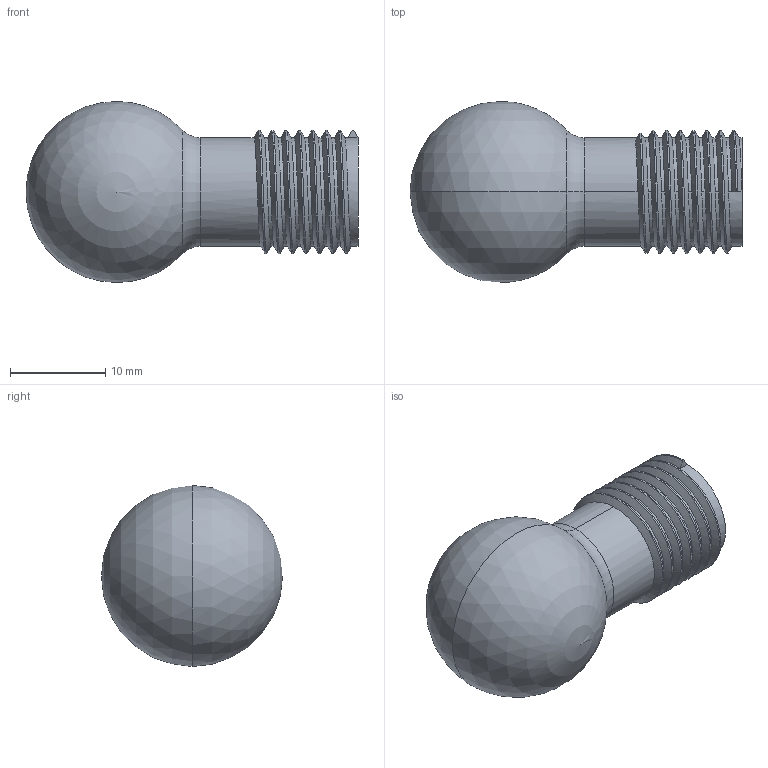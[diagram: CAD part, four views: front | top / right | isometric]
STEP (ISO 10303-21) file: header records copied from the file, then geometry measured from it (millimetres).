
FILE_DESCRIPTION (( 'STEP AP214' ), '1' );
FILE_NAME ('Ball.STEP', '2022-07-18T01:56:30', ( '' ), ( '' ), 'SwSTEP 2.0', 'SolidWorks 2021', '' );
FILE_SCHEMA (( 'AUTOMOTIVE_DESIGN' ));
Length unit declared in the file: inch
Products named in the file (1): Ball
Bounding box: 34.92 x 19.05 x 19.05 mm (x, y, z)
Volume: 5477.2 mm3; surface area: 2028.4 mm2
Topology: 1 solids, 1 shells, 26 faces, 73 edges, 47 vertices
Faces by surface type: cylinder 16, plane 3, bspline 3, torus 2, sphere 2
Entity records: 1881 total; most frequent: CARTESIAN_POINT 1316, ORIENTED_EDGE 134, DIRECTION 88, EDGE_CURVE 67, VERTEX_POINT 43, AXIS2_PLACEMENT_3D 35, ADVANCED_FACE 26, FACE_OUTER_BOUND 26
